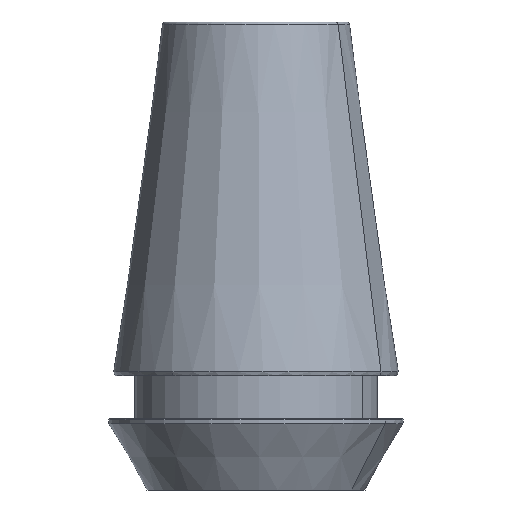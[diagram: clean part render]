
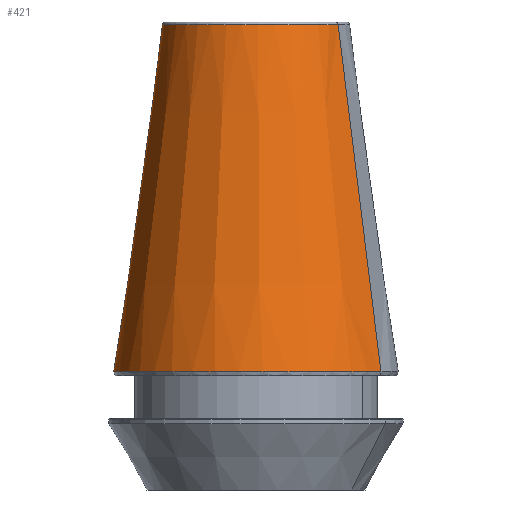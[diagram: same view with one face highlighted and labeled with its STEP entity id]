
A CAD part, front view. The second image highlights one B-rep face of the part: STEP entity #421.
In plain terms, the highlighted conical face has half-angle 8 degrees and reference radius 5.374 mm.
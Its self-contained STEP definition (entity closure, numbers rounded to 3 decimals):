
#290=AXIS2_PLACEMENT_3D('Circle Axis2P3D',#288,#289,$) ;
#307=AXIS2_PLACEMENT_3D('Circle Axis2P3D',#305,#306,$) ;
#407=AXIS2_PLACEMENT_3D('Cone Axis2P3D',#404,#405,#406) ;
#411=AXIS2_PLACEMENT_3D('Circle Axis2P3D',#409,#410,$) ;
#254=CARTESIAN_POINT('Vertex',(-7.207,3.937,-20.192)) ;
#261=CARTESIAN_POINT('Vertex',(7.207,-3.937,-20.192)) ;
#285=CARTESIAN_POINT('Vertex',(-4.85,-6.627,-20.192)) ;
#288=CARTESIAN_POINT('Axis2P3D Location',(0.,0.,-20.192)) ;
#305=CARTESIAN_POINT('Axis2P3D Location',(0.,0.,-20.192)) ;
#370=CARTESIAN_POINT('Line Origine',(61070.301,-33362.858,-495114.915)) ;
#374=CARTESIAN_POINT('Vertex',(4.735,-2.587,-0.155)) ;
#377=CARTESIAN_POINT('Line Origine',(-61070.301,33362.858,-495114.915)) ;
#381=CARTESIAN_POINT('Vertex',(-4.735,2.587,-0.155)) ;
#404=CARTESIAN_POINT('Axis2P3D Location',(0.,0.,0.)) ;
#409=CARTESIAN_POINT('Axis2P3D Location',(0.,0.,-0.155)) ;
#289=DIRECTION('Axis2P3D Direction',(0.,0.,1.)) ;
#306=DIRECTION('Axis2P3D Direction',(0.,0.,1.)) ;
#371=DIRECTION('Vector Direction',(0.122,-0.067,-0.99)) ;
#378=DIRECTION('Vector Direction',(-0.122,0.067,-0.99)) ;
#405=DIRECTION('Axis2P3D Direction',(0.,0.,-1.)) ;
#406=DIRECTION('Axis2P3D XDirection',(0.878,-0.479,0.)) ;
#410=DIRECTION('Axis2P3D Direction',(0.,0.,-1.)) ;
#372=VECTOR('Line Direction',#371,1.) ;
#379=VECTOR('Line Direction',#378,1.) ;
#415=ORIENTED_EDGE('',*,*,#383,.F.) ;
#416=ORIENTED_EDGE('',*,*,#309,.F.) ;
#417=ORIENTED_EDGE('',*,*,#292,.F.) ;
#418=ORIENTED_EDGE('',*,*,#376,.T.) ;
#419=ORIENTED_EDGE('',*,*,#413,.F.) ;
#421=ADVANCED_FACE('NOCUT',(#420),#408,.T.) ;
#291=CIRCLE('generated circle',#290,8.212) ;
#308=CIRCLE('generated circle',#307,8.212) ;
#412=CIRCLE('generated circle',#411,5.396) ;
#408=CONICAL_SURFACE('Cone',#407,5.374,0.14) ;
#292=EDGE_CURVE('',#262,#286,#291,.F.) ;
#309=EDGE_CURVE('',#286,#255,#308,.F.) ;
#376=EDGE_CURVE('',#262,#375,#373,.F.) ;
#383=EDGE_CURVE('',#255,#382,#380,.F.) ;
#413=EDGE_CURVE('',#382,#375,#412,.F.) ;
#414=EDGE_LOOP('',(#415,#416,#417,#418,#419)) ;
#420=FACE_OUTER_BOUND('',#414,.T.) ;
#373=LINE('Line',#370,#372) ;
#380=LINE('Line',#377,#379) ;
#255=VERTEX_POINT('',#254) ;
#262=VERTEX_POINT('',#261) ;
#286=VERTEX_POINT('',#285) ;
#375=VERTEX_POINT('',#374) ;
#382=VERTEX_POINT('',#381) ;
